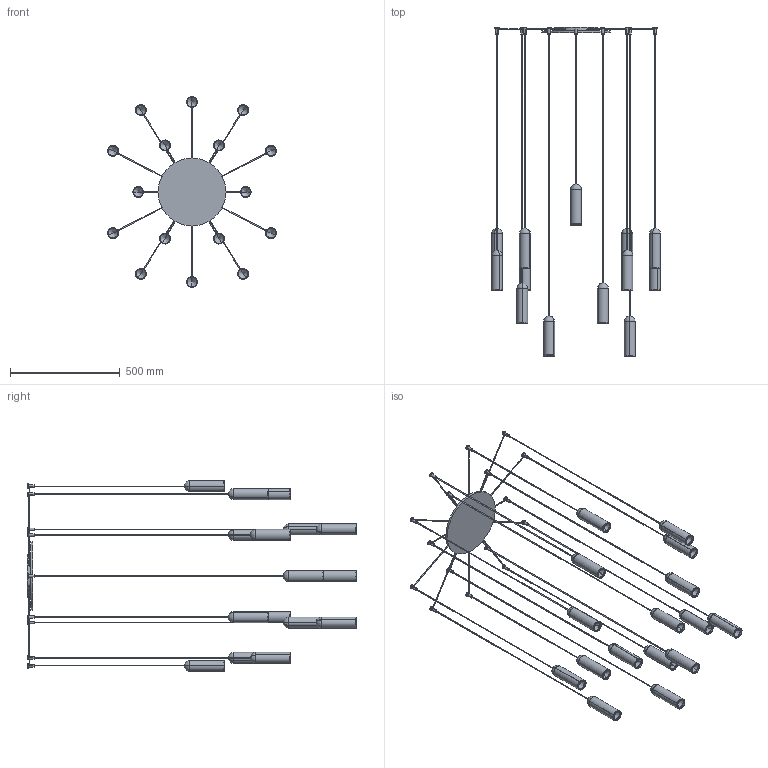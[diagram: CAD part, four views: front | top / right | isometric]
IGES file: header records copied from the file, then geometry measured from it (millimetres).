
Start section: SolidWorks IGES file using analytic representation for surfaces
Global section: file name: Y:\eforma\TECNICO\SOLIDWORKS\E-FORMA\09-LAMPADE\NANUM\08 modelli 3D web\NANA1-00-NANUM 16 A ROSONE CENTRALE.IGS; native system: SolidWorks 2022; preprocessor: SolidWorks 2022; author: eforma.tech; date: 240801.144503; units: millimetre
Bounding box: 770.21 x 1500 x 870 mm (x, y, z)
Volume: 2664141 mm3; surface area: 1428076.5 mm2
Topology: 48 solids, 48 shells, 604 faces, 1188 edges, 681 vertices
Faces by surface type: revolution 489, plane 115
